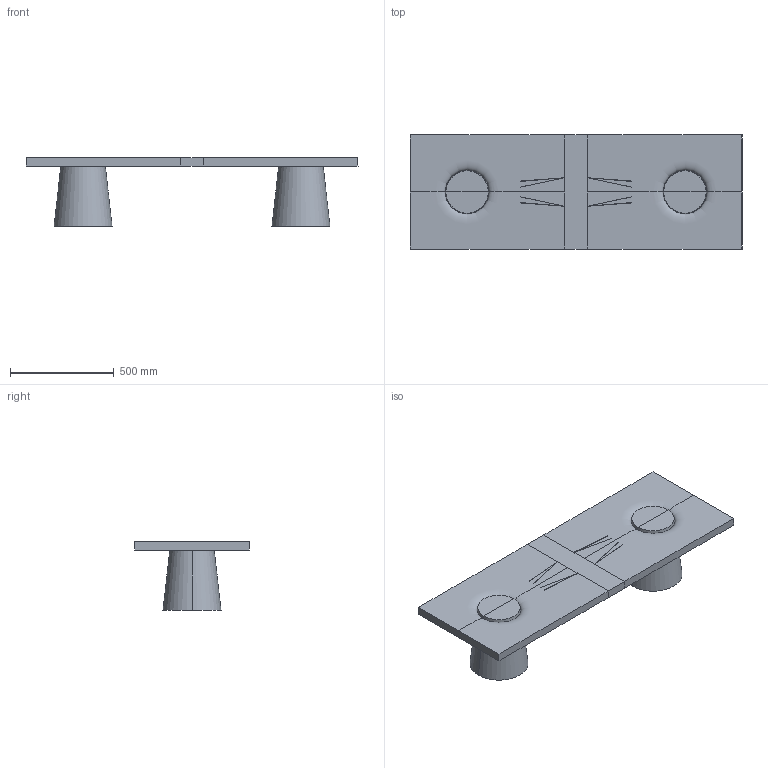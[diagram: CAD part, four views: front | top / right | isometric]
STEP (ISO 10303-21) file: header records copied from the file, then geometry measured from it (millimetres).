
FILE_DESCRIPTION(/* description */ (''),/* implementation_level */ '2;1');
FILE_NAME(/* name */ 'Grova_Coffee_Table_3D',/* time_stamp */ '2026-01-26T15:12:00+01:00',/* author */ (''),/* organization */ (''),/* preprocessor_version */ 'ST-DEVELOPER v19.2',/* originating_system */ 'Rhino 8.27',/* authorisation */ '');
FILE_SCHEMA (('CONFIG_CONTROL_DESIGN'));
Length unit declared in the file: millimetre
Products named in the file (1): Document
Bounding box: 1600 x 550 x 330.5 mm (x, y, z)
Volume: 62818745.6 mm3; surface area: 2596618.6 mm2
Topology: 5 solids, 5 shells, 54 faces, 116 edges, 64 vertices
Faces by surface type: plane 30, cylinder 12, bspline 12
Entity records: 13554 total; most frequent: CARTESIAN_POINT 12502, ORIENTED_EDGE 232, DIRECTION 118, EDGE_CURVE 116, AXIS2_PLACEMENT_3D 80, B_SPLINE_CURVE_WITH_KNOTS 72, VERTEX_POINT 64, ADVANCED_FACE 54
